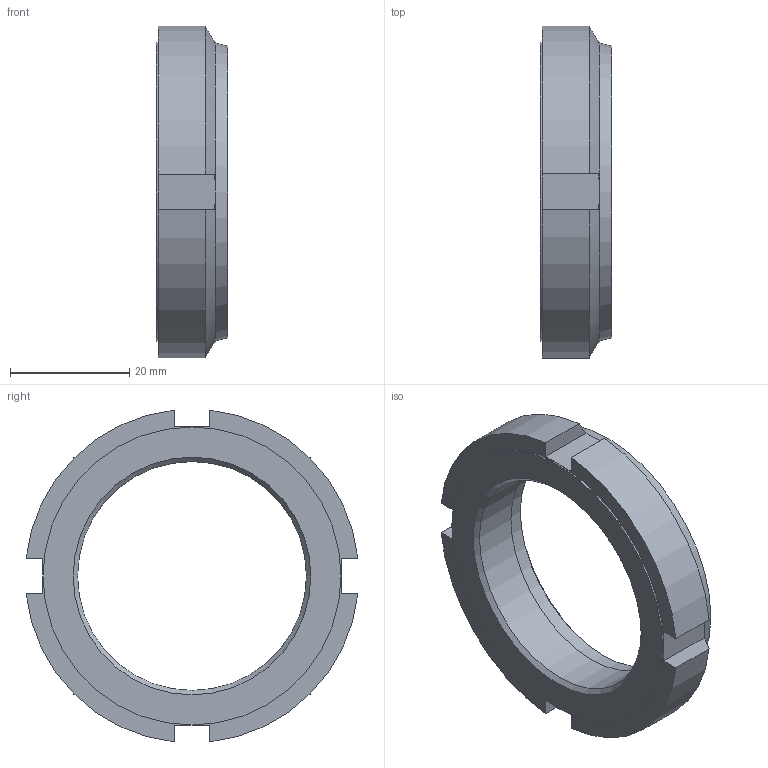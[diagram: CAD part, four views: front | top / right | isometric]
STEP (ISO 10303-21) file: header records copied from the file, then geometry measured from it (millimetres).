
FILE_DESCRIPTION( ( 'STEP AP203' ), '1' );
FILE_NAME( 'C:/Temp/Ganter_Step_05_03_2020/data/3_2/gn1804_1/Slotted locknut self-locking GN 1804.1-M40x1,5.stp', '2020-03-13T05:25:17', ( 'License CC BY-ND 4.0' ), ( 'CADENAS' ), ' ', 'PARTsolutions', ' ' );
FILE_SCHEMA( ( 'CONFIG_CONTROL_DESIGN' ) );
Length unit declared in the file: millimetre
Products named in the file (1): _Slotted locknut self-locking GN 1804.1-M40x1,5
Bounding box: 12 x 55.68 x 55.68 mm (x, y, z)
Volume: 12889 mm3; surface area: 5875.7 mm2
Topology: 1 solids, 1 shells, 34 faces, 79 edges, 49 vertices
Faces by surface type: plane 20, cylinder 8, cone 6
Full cylindrical faces by diameter (mm): 38.376 x1, 39.5 x1, 42 x1, 50 x1
Entity records: 1018 total; most frequent: CARTESIAN_POINT 229, DIRECTION 152, ORIENTED_EDGE 146, EDGE_CURVE 73, AXIS2_PLACEMENT_3D 60, VERTEX_POINT 49, EDGE_LOOP 44, FACE_OUTER_BOUND 38
